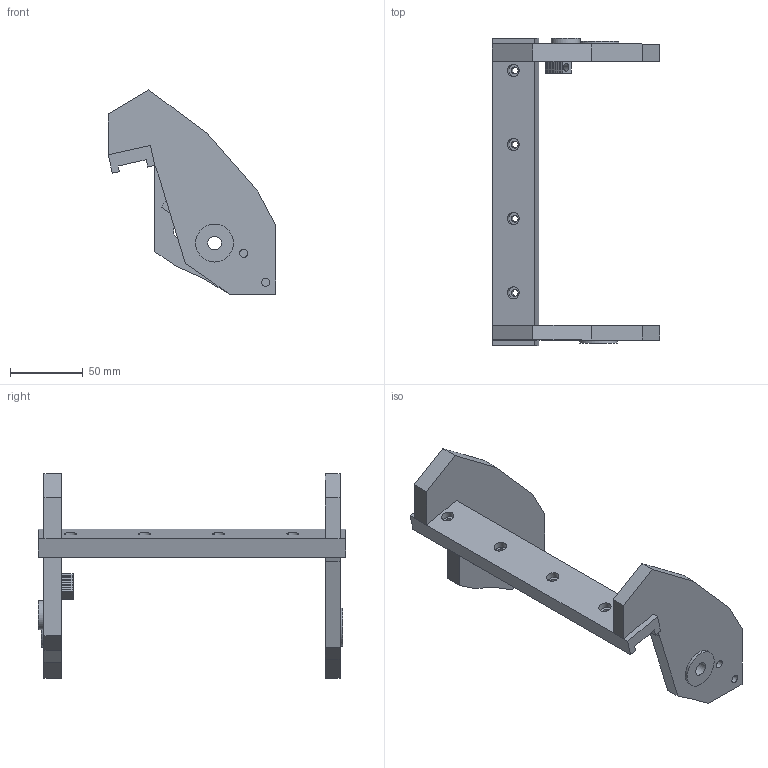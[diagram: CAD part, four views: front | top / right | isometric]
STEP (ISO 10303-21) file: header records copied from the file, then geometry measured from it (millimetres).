
FILE_DESCRIPTION(('Open CASCADE Model'),'2;1');
FILE_NAME('Open CASCADE Shape Model','2026-10-17T22:15:35',('Author'),( 'Open CASCADE'),'Open CASCADE STEP processor 7.9','Open CASCADE 7.9' ,'Unknown');
FILE_SCHEMA(('AUTOMOTIVE_DESIGN { 1 0 10303 214 1 1 1 1 }'));
Length unit declared in the file: millimetre
Products named in the file (1): Open CASCADE STEP translator 7.9 1
Bounding box: 114.88 x 211 x 140 mm (x, y, z)
Volume: 247710.9 mm3; surface area: 64536.5 mm2
Topology: 1 solids, 1 shells, 97 faces, 239 edges, 156 vertices
Faces by surface type: plane 77, cylinder 20
Full cylindrical faces by diameter (mm): 4.8 x4, 5.6 x5, 8.4 x4, 9.5 x2, 11.2 x1, 20 x1, 26 x1
Entity records: 6091 total; most frequent: CARTESIAN_POINT 1163, DIRECTION 926, LINE 634, VECTOR 634, ORIENTED_EDGE 478, PCURVE 478, DEFINITIONAL_REPRESENTATION 478, EDGE_CURVE 239
